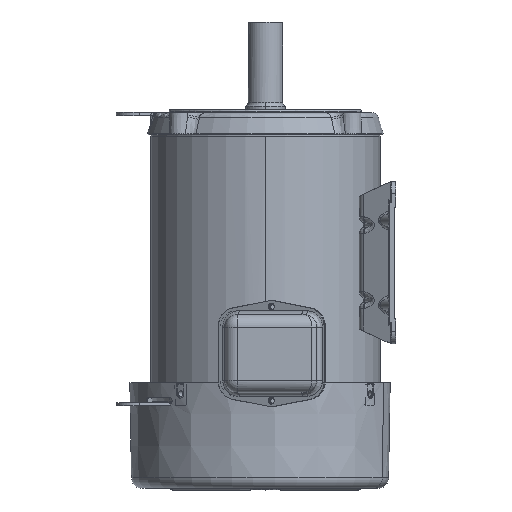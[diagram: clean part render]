
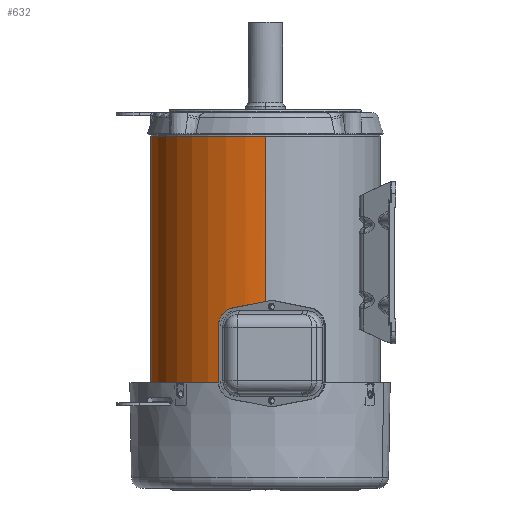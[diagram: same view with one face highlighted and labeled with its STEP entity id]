
A CAD part, left-side view. The second image highlights one B-rep face of the part: STEP entity #632.
In plain terms, the highlighted cylindrical face has radius 116.545 mm (diameter 233.091 mm), a partial arc.
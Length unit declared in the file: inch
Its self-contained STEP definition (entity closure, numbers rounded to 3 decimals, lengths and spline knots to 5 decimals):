
#1=CARTESIAN_POINT('',(-4.52996,0.73,-3.157));
#2=CARTESIAN_POINT('',(-4.52784,0.74314,-3.157));
#3=CARTESIAN_POINT('',(-4.52376,0.76776,-3.15258));
#4=CARTESIAN_POINT('',(-4.51783,0.80181,-3.13321));
#5=CARTESIAN_POINT('',(-4.51331,0.8268,-3.10328));
#6=CARTESIAN_POINT('',(-4.51086,0.83997,-3.06718));
#7=CARTESIAN_POINT('',(-4.51084,0.84011,-3.02844));
#8=CARTESIAN_POINT('',(-4.51327,0.82697,-2.99207));
#9=CARTESIAN_POINT('',(-4.51772,0.80244,-2.96231));
#10=CARTESIAN_POINT('',(-4.52371,0.76804,-2.94245));
#11=CARTESIAN_POINT('',(-4.52782,0.74326,-2.938));
#12=CARTESIAN_POINT('',(-4.52996,0.73,-2.938));
#14=CARTESIAN_POINT('',(-4.52996,0.73,-2.938));
#15=CARTESIAN_POINT('',(-4.53207,0.71688,-2.938));
#16=CARTESIAN_POINT('',(-4.53592,0.69229,-2.94241));
#17=CARTESIAN_POINT('',(-4.54097,0.6583,-2.9617));
#18=CARTESIAN_POINT('',(-4.5445,0.63327,-2.9916));
#19=CARTESIAN_POINT('',(-4.54632,0.62003,-3.02777));
#20=CARTESIAN_POINT('',(-4.54633,0.61989,-3.06663));
#21=CARTESIAN_POINT('',(-4.54453,0.6331,-3.10306));
#22=CARTESIAN_POINT('',(-4.54105,0.65769,-3.13279));
#23=CARTESIAN_POINT('',(-4.53596,0.69203,-3.15256));
#24=CARTESIAN_POINT('',(-4.53209,0.71678,-3.157));
#25=CARTESIAN_POINT('',(-4.52996,0.73,-3.157));
#27=CARTESIAN_POINT('',(0.,0.,-4.9205));
#28=DIRECTION('',(0.,0.,1.));
#29=DIRECTION('',(1.,0.,0.));
#30=AXIS2_PLACEMENT_3D('',#27,#28,#29);
#32=DIRECTION('',(0.,0.,1.));
#33=VECTOR('',#32,9.842);
#34=CARTESIAN_POINT('',(4.5884,0.,-4.9205));
#35=LINE('',#34,#33);
#36=CARTESIAN_POINT('',(0.,0.,4.9215));
#37=DIRECTION('',(0.,0.,1.));
#38=DIRECTION('',(1.,0.,0.));
#39=AXIS2_PLACEMENT_3D('',#36,#37,#38);
#41=CARTESIAN_POINT('',(-4.57352,0.36919,-3.05653));
#42=CARTESIAN_POINT('',(-4.57662,0.33087,-3.03691));
#43=CARTESIAN_POINT('',(-4.582,0.25232,-3.00426));
#44=CARTESIAN_POINT('',(-4.58722,0.12705,-2.97413));
#45=CARTESIAN_POINT('',(-4.5884,0.04271,-2.9675));
#46=CARTESIAN_POINT('',(-4.5884,0.,-2.9675));
#48=CARTESIAN_POINT('',(-4.5682,0.43009,-3.13111));
#49=CARTESIAN_POINT('',(-4.56837,0.4283,-3.12469));
#50=CARTESIAN_POINT('',(-4.5688,0.42371,-3.11233));
#51=CARTESIAN_POINT('',(-4.56971,0.41382,-3.09503));
#52=CARTESIAN_POINT('',(-4.57083,0.40125,-3.07964));
#53=CARTESIAN_POINT('',(-4.57212,0.38629,-3.06651));
#54=CARTESIAN_POINT('',(-4.57304,0.37512,-3.05956));
#55=CARTESIAN_POINT('',(-4.57352,0.36919,-3.05653));
#57=CARTESIAN_POINT('',(-4.54264,0.64639,-3.34741));
#58=CARTESIAN_POINT('',(-4.54474,0.63164,-3.3433));
#59=CARTESIAN_POINT('',(-4.54866,0.60309,-3.33303));
#60=CARTESIAN_POINT('',(-4.55383,0.56266,-3.31139));
#61=CARTESIAN_POINT('',(-4.55821,0.52589,-3.28409));
#62=CARTESIAN_POINT('',(-4.56182,0.49349,-3.2517));
#63=CARTESIAN_POINT('',(-4.56468,0.46618,-3.21495));
#64=CARTESIAN_POINT('',(-4.56683,0.4445,-3.17447));
#65=CARTESIAN_POINT('',(-4.56781,0.43421,-3.14589));
#66=CARTESIAN_POINT('',(-4.5682,0.43009,-3.13111));
#68=CARTESIAN_POINT('',(-4.5314,0.72097,-3.40831));
#69=CARTESIAN_POINT('',(-4.53189,0.71792,-3.40235));
#70=CARTESIAN_POINT('',(-4.53299,0.71094,-3.39114));
#71=CARTESIAN_POINT('',(-4.53504,0.69777,-3.37616));
#72=CARTESIAN_POINT('',(-4.53739,0.68238,-3.36362));
#73=CARTESIAN_POINT('',(-4.53995,0.66512,-3.35376));
#74=CARTESIAN_POINT('',(-4.54173,0.65279,-3.3492));
#75=CARTESIAN_POINT('',(-4.54264,0.64639,-3.34741));
#77=CARTESIAN_POINT('',(-4.5884,0.,-4.5875));
#78=CARTESIAN_POINT('',(-4.5884,0.02941,-4.5875));
#79=CARTESIAN_POINT('',(-4.58784,0.08801,-4.58433));
#80=CARTESIAN_POINT('',(-4.5853,0.17614,-4.5698));
#81=CARTESIAN_POINT('',(-4.58118,0.26173,-4.54574));
#82=CARTESIAN_POINT('',(-4.57578,0.34307,-4.51297));
#83=CARTESIAN_POINT('',(-4.56935,0.41999,-4.472));
#84=CARTESIAN_POINT('',(-4.56172,0.49602,-4.42023));
#85=CARTESIAN_POINT('',(-4.55284,0.57188,-4.35436));
#86=CARTESIAN_POINT('',(-4.54275,0.64712,-4.26973));
#87=CARTESIAN_POINT('',(-4.53203,0.71805,-4.1605));
#88=CARTESIAN_POINT('',(-4.52261,0.77469,-4.02952));
#89=CARTESIAN_POINT('',(-4.51646,0.80939,-3.87573));
#90=CARTESIAN_POINT('',(-4.51579,0.81305,-3.71243));
#91=CARTESIAN_POINT('',(-4.52121,0.78275,-3.54954));
#92=CARTESIAN_POINT('',(-4.52767,0.74443,-3.45413));
#93=CARTESIAN_POINT('',(-4.5314,0.72097,-3.40831));
#278=DIRECTION('',(0.,0.,1.));
#279=VECTOR('',#278,0.333);
#280=CARTESIAN_POINT('',(-4.5884,0.,-4.9205));
#281=LINE('',#280,#279);
#339=DIRECTION('',(0.,0.,1.));
#340=VECTOR('',#339,7.889);
#341=CARTESIAN_POINT('',(-4.5884,0.,-2.9675));
#342=LINE('',#341,#340);
#531=VERTEX_POINT('',#1);
#532=VERTEX_POINT('',#12);
#533=VERTEX_POINT('',#48);
#534=VERTEX_POINT('',#55);
#535=VERTEX_POINT('',#46);
#536=VERTEX_POINT('',#77);
#537=VERTEX_POINT('',#93);
#538=VERTEX_POINT('',#75);
#571=CARTESIAN_POINT('',(4.5884,0.,-4.9205));
#572=CARTESIAN_POINT('',(-4.5884,0.,-4.9205));
#573=VERTEX_POINT('',#571);
#574=VERTEX_POINT('',#572);
#579=CARTESIAN_POINT('',(4.5884,0.,4.9215));
#580=VERTEX_POINT('',#579);
#595=CARTESIAN_POINT('',(-4.5884,0.,4.9215));
#596=VERTEX_POINT('',#595);
#599=CARTESIAN_POINT('',(0.,0.,-5.1875));
#600=DIRECTION('',(0.,0.,1.));
#601=DIRECTION('',(1.,0.,0.));
#602=AXIS2_PLACEMENT_3D('',#599,#600,#601);
#603=CYLINDRICAL_SURFACE('',#602,4.5884);
#605=ORIENTED_EDGE('',*,*,#604,.F.);
#607=ORIENTED_EDGE('',*,*,#606,.T.);
#609=ORIENTED_EDGE('',*,*,#608,.T.);
#611=ORIENTED_EDGE('',*,*,#610,.F.);
#613=ORIENTED_EDGE('',*,*,#612,.F.);
#615=ORIENTED_EDGE('',*,*,#614,.F.);
#617=ORIENTED_EDGE('',*,*,#616,.F.);
#619=ORIENTED_EDGE('',*,*,#618,.F.);
#621=ORIENTED_EDGE('',*,*,#620,.F.);
#623=ORIENTED_EDGE('',*,*,#622,.F.);
#624=EDGE_LOOP('',(#605,#607,#609,#611,#613,#615,#617,#619,#621,#623));
#625=FACE_OUTER_BOUND('',#624,.F.);
#627=ORIENTED_EDGE('',*,*,#626,.F.);
#629=ORIENTED_EDGE('',*,*,#628,.F.);
#630=EDGE_LOOP('',(#627,#629));
#631=FACE_BOUND('',#630,.F.);
#632=ADVANCED_FACE('',(#625,#631),#603,.T.);
#13=B_SPLINE_CURVE_WITH_KNOTS('',3,(#1,#2,#3,#4,#5,#6,#7,#8,#9,#10,#11,#12),
.UNSPECIFIED.,.F.,.F.,(4,1,1,1,1,1,1,1,1,4),(0.,0.11111,
0.22222,0.33333,0.44444,0.55556,
0.66667,0.77778,0.88889,1.),.UNSPECIFIED.);
#26=B_SPLINE_CURVE_WITH_KNOTS('',3,(#14,#15,#16,#17,#18,#19,#20,#21,#22,#23,#24,
#25),.UNSPECIFIED.,.F.,.F.,(4,1,1,1,1,1,1,1,1,4),(0.,0.11111,
0.22222,0.33333,0.44444,0.55556,
0.66667,0.77778,0.88889,1.),.UNSPECIFIED.);
#31=CIRCLE('',#30,4.5884);
#40=CIRCLE('',#39,4.5884);
#47=B_SPLINE_CURVE_WITH_KNOTS('',3,(#41,#42,#43,#44,#45,#46),.UNSPECIFIED.,.F.,
.F.,(4,1,1,4),(0.,0.33333,0.66667,1.),.UNSPECIFIED.);
#56=B_SPLINE_CURVE_WITH_KNOTS('',3,(#48,#49,#50,#51,#52,#53,#54,#55),
.UNSPECIFIED.,.F.,.F.,(4,1,1,1,1,4),(0.,0.2,0.4,0.6,0.8,1.),
.UNSPECIFIED.);
#67=B_SPLINE_CURVE_WITH_KNOTS('',3,(#57,#58,#59,#60,#61,#62,#63,#64,#65,#66),
.UNSPECIFIED.,.F.,.F.,(4,1,1,1,1,1,1,4),(0.,0.14286,
0.28571,0.42857,0.57143,0.71429,
0.85714,1.),.UNSPECIFIED.);
#76=B_SPLINE_CURVE_WITH_KNOTS('',3,(#68,#69,#70,#71,#72,#73,#74,#75),
.UNSPECIFIED.,.F.,.F.,(4,1,1,1,1,4),(0.,0.2,0.4,0.6,0.8,1.),
.UNSPECIFIED.);
#94=B_SPLINE_CURVE_WITH_KNOTS('',3,(#77,#78,#79,#80,#81,#82,#83,#84,#85,#86,#87,
#88,#89,#90,#91,#92,#93),.UNSPECIFIED.,.F.,.F.,(4,1,1,1,1,1,1,1,1,1,1,1,1,1,4),(
0.,0.07143,0.14286,0.21429,0.28571,
0.35714,0.42857,0.5,0.57143,0.64286,
0.71429,0.78571,0.85714,0.92857,1.),
.UNSPECIFIED.);
#604=EDGE_CURVE('',#573,#574,#31,.T.);
#606=EDGE_CURVE('',#573,#580,#35,.T.);
#608=EDGE_CURVE('',#580,#596,#40,.T.);
#610=EDGE_CURVE('',#535,#596,#342,.T.);
#612=EDGE_CURVE('',#534,#535,#47,.T.);
#614=EDGE_CURVE('',#533,#534,#56,.T.);
#616=EDGE_CURVE('',#538,#533,#67,.T.);
#618=EDGE_CURVE('',#537,#538,#76,.T.);
#620=EDGE_CURVE('',#536,#537,#94,.T.);
#622=EDGE_CURVE('',#574,#536,#281,.T.);
#626=EDGE_CURVE('',#531,#532,#13,.T.);
#628=EDGE_CURVE('',#532,#531,#26,.T.);
